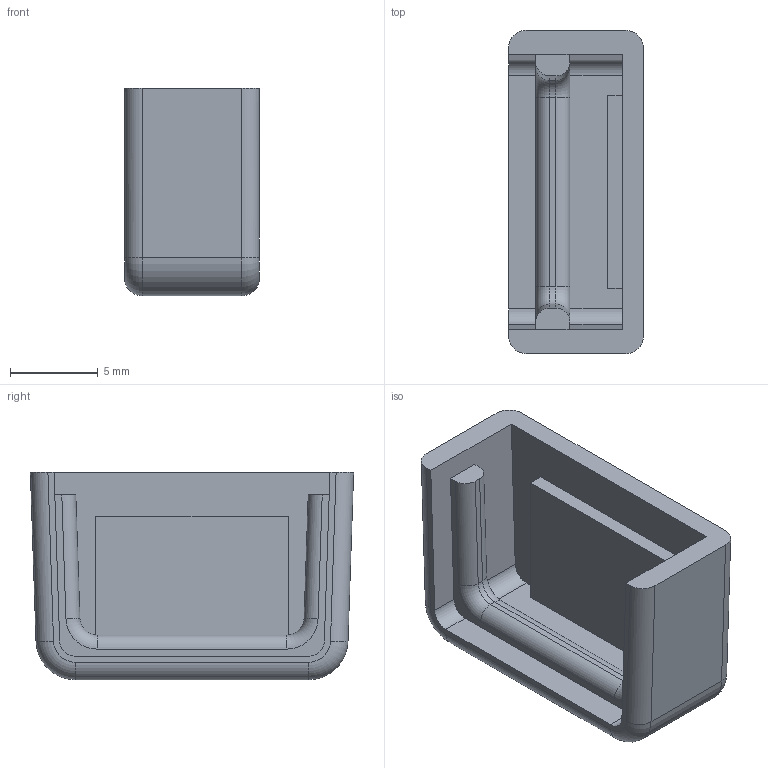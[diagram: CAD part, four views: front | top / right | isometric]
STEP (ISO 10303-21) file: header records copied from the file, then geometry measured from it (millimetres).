
FILE_DESCRIPTION (( 'STEP AP203' ), '1' );
FILE_NAME ('140308040016-彴倛芵噩-帣裔.STEP', '2022-10-14T01:14:19', ( '' ), ( '' ), 'SwSTEP 2.0', 'SolidWorks 2017', '' );
FILE_SCHEMA (( 'CONFIG_CONTROL_DESIGN' ));
Length unit declared in the file: millimetre
Products named in the file (1): 140308040016-彴倛芵噩-帣裔
Bounding box: 7.7 x 18.46 x 11.85 mm (x, y, z)
Volume: 706.4 mm3; surface area: 1027.3 mm2
Topology: 1 solids, 1 shells, 50 faces, 128 edges, 80 vertices
Faces by surface type: plane 22, cylinder 20, torus 8
Entity records: 1581 total; most frequent: CARTESIAN_POINT 283, DIRECTION 262, ORIENTED_EDGE 256, EDGE_CURVE 128, AXIS2_PLACEMENT_3D 91, VECTOR 80, VERTEX_POINT 80, LINE 80
